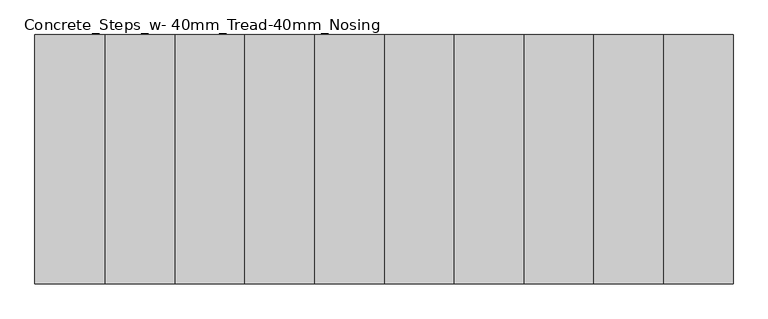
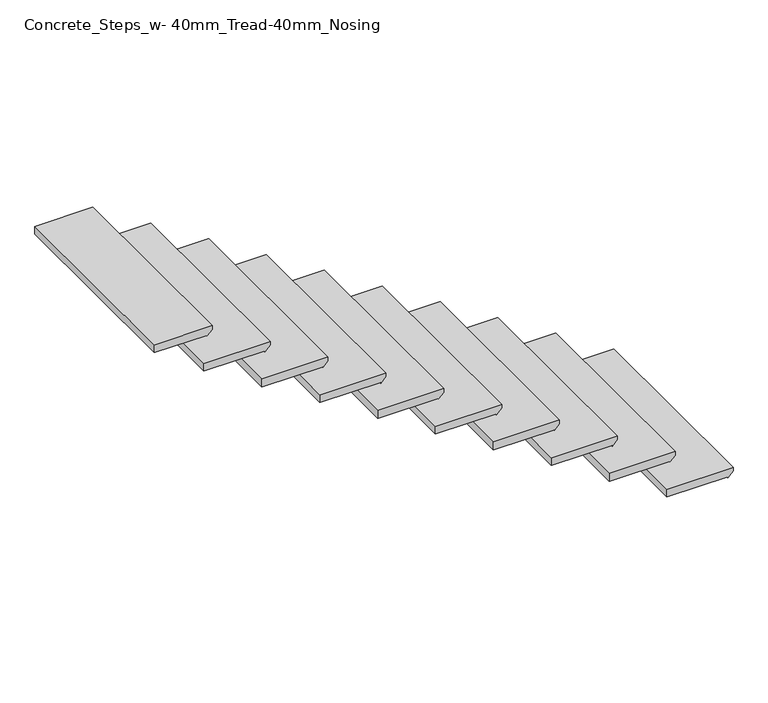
"""IFC4 building model written with IfcOpenShell, lengths in millimetres: stair flight geometry, Concrete_Steps_w- 40mm_Tread-40mm_Nosing."""

from ifc_helpers import new_model, si_unit, frame, origin, place, context, project, spatial, polyline, outline, extrude, source, transform, mapped, element, save


def concrete_steps_w_40mm_tread_40mm_nosing_7fead684(model_context):
    return source(origin(), model_context, "Body", "SweptSolid", [
        extrude(outline(polyline([(2142.8571429, 38096.3596932), (2142.8571429, 37776.3596932), (2102.8571429, 37776.3596932), (2102.8571429, 38070.9596932), (2098.4071429, 38070.9596932), (2123.8071429, 38096.3596932), (2142.8571429, 38096.3596932)])), frame((0.0, -3247.3476462, 0.0), z_axis=(0.0, 1.0, 0.0), x_axis=(0.0, 0.0, 1.0)), (0.0, 0.0, 1.0), 1000.0),
        extrude(outline(polyline([(2321.4285714, 37816.3596932), (2321.4285714, 37496.3596932), (2281.4285714, 37496.3596932), (2281.4285714, 37790.9596932), (2276.9785714, 37790.9596932), (2302.3785714, 37816.3596932), (2321.4285714, 37816.3596932)])), frame((0.0, -3247.3476462, 0.0), z_axis=(0.0, 1.0, 0.0), x_axis=(0.0, 0.0, 1.0)), (0.0, 0.0, 1.0), 1000.0),
        extrude(outline(polyline([(2500.0, 37536.3596932), (2500.0, 37216.3596932), (2460.0, 37216.3596932), (2460.0, 37510.9596932), (2455.55, 37510.9596932), (2480.95, 37536.3596932), (2500.0, 37536.3596932)])), frame((0.0, -3247.3476462, 0.0), z_axis=(0.0, 1.0, 0.0), x_axis=(0.0, 0.0, 1.0)), (0.0, 0.0, 1.0), 1000.0),
        extrude(outline(polyline([(2678.5714286, 37256.3596932), (2678.5714286, 36936.3596932), (2638.5714286, 36936.3596932), (2638.5714286, 37230.9596932), (2634.1214286, 37230.9596932), (2659.5214286, 37256.3596932), (2678.5714286, 37256.3596932)])), frame((0.0, -3247.3476462, 0.0), z_axis=(0.0, 1.0, 0.0), x_axis=(0.0, 0.0, 1.0)), (0.0, 0.0, 1.0), 1000.0),
        extrude(outline(polyline([(2857.1428571, 36976.3596932), (2857.1428571, 36656.3596932), (2817.1428571, 36656.3596932), (2817.1428571, 36950.9596932), (2812.6928571, 36950.9596932), (2838.0928571, 36976.3596932), (2857.1428571, 36976.3596932)])), frame((0.0, -3247.3476462, 0.0), z_axis=(0.0, 1.0, 0.0), x_axis=(0.0, 0.0, 1.0)), (0.0, 0.0, 1.0), 1000.0),
        extrude(outline(polyline([(3035.7142857, 36696.3596932), (3035.7142857, 36376.3596932), (2995.7142857, 36376.3596932), (2995.7142857, 36670.9596932), (2991.2642857, 36670.9596932), (3016.6642857, 36696.3596932), (3035.7142857, 36696.3596932)])), frame((0.0, -3247.3476462, 0.0), z_axis=(0.0, 1.0, 0.0), x_axis=(0.0, 0.0, 1.0)), (0.0, 0.0, 1.0), 1000.0),
        extrude(outline(polyline([(3214.2857143, 36416.3596932), (3214.2857143, 36096.3596932), (3174.2857143, 36096.3596932), (3174.2857143, 36390.9596932), (3169.8357143, 36390.9596932), (3195.2357143, 36416.3596932), (3214.2857143, 36416.3596932)])), frame((0.0, -3247.3476462, 0.0), z_axis=(0.0, 1.0, 0.0), x_axis=(0.0, 0.0, 1.0)), (0.0, 0.0, 1.0), 1000.0),
        extrude(outline(polyline([(3392.8571429, 36136.3596932), (3392.8571429, 35816.3596932), (3352.8571429, 35816.3596932), (3352.8571429, 36110.9596932), (3348.4071429, 36110.9596932), (3373.8071429, 36136.3596932), (3392.8571429, 36136.3596932)])), frame((0.0, -3247.3476462, 0.0), z_axis=(0.0, 1.0, 0.0), x_axis=(0.0, 0.0, 1.0)), (0.0, 0.0, 1.0), 1000.0),
        extrude(outline(polyline([(3571.4285714, 35856.3596932), (3571.4285714, 35536.3596932), (3531.4285714, 35536.3596932), (3531.4285714, 35830.9596932), (3526.9785714, 35830.9596932), (3552.3785714, 35856.3596932), (3571.4285714, 35856.3596932)])), frame((0.0, -3247.3476462, 0.0), z_axis=(0.0, 1.0, 0.0), x_axis=(0.0, 0.0, 1.0)), (0.0, 0.0, 1.0), 1000.0),
        extrude(outline(polyline([(3750.0, 35576.3596932), (3750.0, 35296.3596932), (3710.0, 35296.3596932), (3710.0, 35550.9596932), (3705.55, 35550.9596932), (3730.95, 35576.3596932), (3750.0, 35576.3596932)])), frame((0.0, -3247.3476462, 0.0), z_axis=(0.0, 1.0, 0.0), x_axis=(0.0, 0.0, 1.0)), (0.0, 0.0, 1.0), 1000.0),
    ])


if __name__ == "__main__":
    model = new_model("IFC4")
    model_context = context("Model", 3, world=origin())
    ifc_project = project(units=[si_unit("LENGTHUNIT", "METRE", prefix="MILLI")], contexts=[model_context])
    site = spatial("IfcSite", under=ifc_project)
    building = spatial("IfcBuilding", under=site)
    placement = place(None, origin())
    concrete_steps_w_40mm_tread_40mm_nosing_shape = concrete_steps_w_40mm_tread_40mm_nosing_7fead684(model_context)
    element("IfcStairFlight", 1, ObjectType="Concrete_Steps_w- 40mm_Tread-40mm_Nosing", at=placement, inside=building, context=model_context, shape_type="MappedRepresentation", body=[
        mapped(concrete_steps_w_40mm_tread_40mm_nosing_shape, transform((0.0, 0.0, 0.0), x_axis=(1.0, 0.0, 0.0), y_axis=(0.0, 1.0, 0.0), z_axis=(0.0, 0.0, 1.0))),
    ])
    save(model, "model.ifc")
